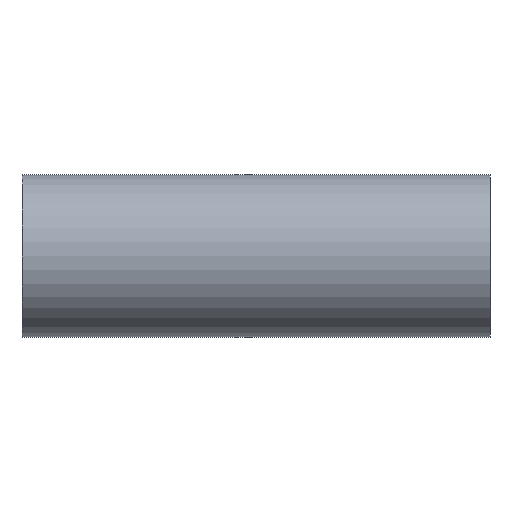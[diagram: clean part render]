
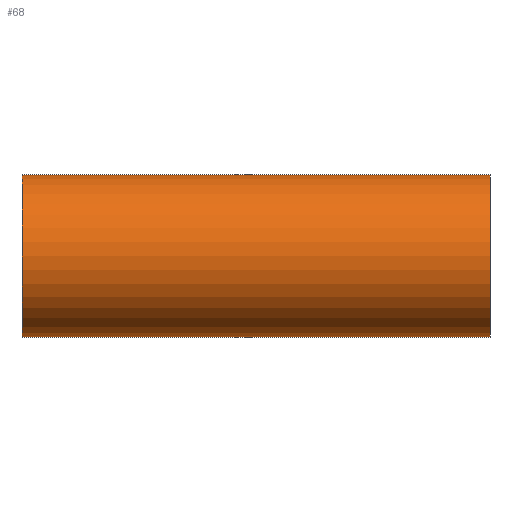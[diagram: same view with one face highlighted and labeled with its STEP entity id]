
A CAD part, front view. The second image highlights one B-rep face of the part: STEP entity #68.
In plain terms, the highlighted cylindrical face has radius 25.4 mm (diameter 50.8 mm), a partial arc.
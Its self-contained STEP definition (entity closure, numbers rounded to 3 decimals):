
#28 = ORIENTED_EDGE ( 'NONE', *, *, #402, .T. ) ;
#37 = EDGE_CURVE ( 'NONE', #661, #695, #219, .T. ) ;
#68 = ADVANCED_FACE ( 'NONE', ( #1220 ), #314, .T. ) ;
#160 = CARTESIAN_POINT ( 'NONE',  ( -73., 0., -25.4 ) ) ;
#201 = DIRECTION ( 'NONE',  ( 0., 0., -1. ) ) ;
#219 = LINE ( 'NONE', #268, #934 ) ;
#259 = CARTESIAN_POINT ( 'NONE',  ( -73., 0., 0. ) ) ;
#268 = CARTESIAN_POINT ( 'NONE',  ( -73., 0., 25.4 ) ) ;
#283 = EDGE_LOOP ( 'NONE', ( #1003, #566, #28, #662 ) ) ;
#298 = EDGE_CURVE ( 'NONE', #884, #695, #951, .T. ) ;
#314 = CYLINDRICAL_SURFACE ( 'NONE', #1153, 25.4 ) ;
#376 = DIRECTION ( 'NONE',  ( 0., 0., -1. ) ) ;
#380 = CARTESIAN_POINT ( 'NONE',  ( -73., 0., 25.4 ) ) ;
#402 = EDGE_CURVE ( 'NONE', #712, #884, #1247, .T. ) ;
#434 = CIRCLE ( 'NONE', #560, 25.4 ) ;
#445 = VECTOR ( 'NONE', #923, 1000. ) ;
#458 = CARTESIAN_POINT ( 'NONE',  ( 73., 0., 0. ) ) ;
#518 = DIRECTION ( 'NONE',  ( -1., 0., 0. ) ) ;
#560 = AXIS2_PLACEMENT_3D ( 'NONE', #259, #1225, #376 ) ;
#566 = ORIENTED_EDGE ( 'NONE', *, *, #653, .T. ) ;
#621 = AXIS2_PLACEMENT_3D ( 'NONE', #458, #518, #1257 ) ;
#653 = EDGE_CURVE ( 'NONE', #661, #712, #434, .T. ) ;
#661 = VERTEX_POINT ( 'NONE', #380 ) ;
#662 = ORIENTED_EDGE ( 'NONE', *, *, #298, .T. ) ;
#695 = VERTEX_POINT ( 'NONE', #961 ) ;
#712 = VERTEX_POINT ( 'NONE', #1164 ) ;
#722 = CARTESIAN_POINT ( 'NONE',  ( 73., 0., -25.4 ) ) ;
#884 = VERTEX_POINT ( 'NONE', #722 ) ;
#923 = DIRECTION ( 'NONE',  ( 1., 0., 0. ) ) ;
#934 = VECTOR ( 'NONE', #1022, 1000. ) ;
#937 = DIRECTION ( 'NONE',  ( 1., 0., 0. ) ) ;
#951 = CIRCLE ( 'NONE', #621, 25.4 ) ;
#961 = CARTESIAN_POINT ( 'NONE',  ( 73., 0., 25.4 ) ) ;
#1003 = ORIENTED_EDGE ( 'NONE', *, *, #37, .F. ) ;
#1022 = DIRECTION ( 'NONE',  ( 1., 0., 0. ) ) ;
#1153 = AXIS2_PLACEMENT_3D ( 'NONE', #1168, #937, #201 ) ;
#1164 = CARTESIAN_POINT ( 'NONE',  ( -73., 0., -25.4 ) ) ;
#1168 = CARTESIAN_POINT ( 'NONE',  ( -73., 0., 0. ) ) ;
#1220 = FACE_OUTER_BOUND ( 'NONE', #283, .T. ) ;
#1225 = DIRECTION ( 'NONE',  ( 1., 0., 0. ) ) ;
#1247 = LINE ( 'NONE', #160, #445 ) ;
#1257 = DIRECTION ( 'NONE',  ( 0., 0., -1. ) ) ;
